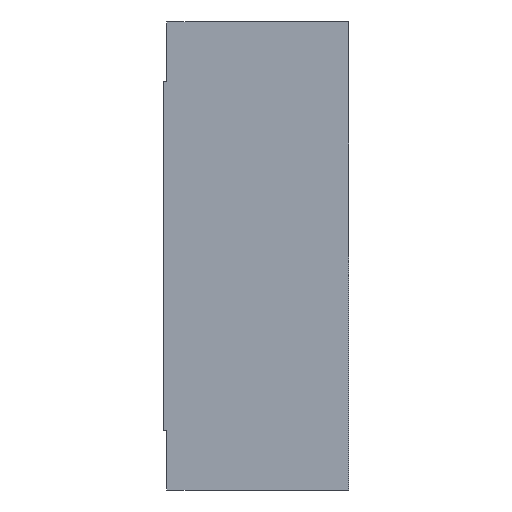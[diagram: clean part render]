
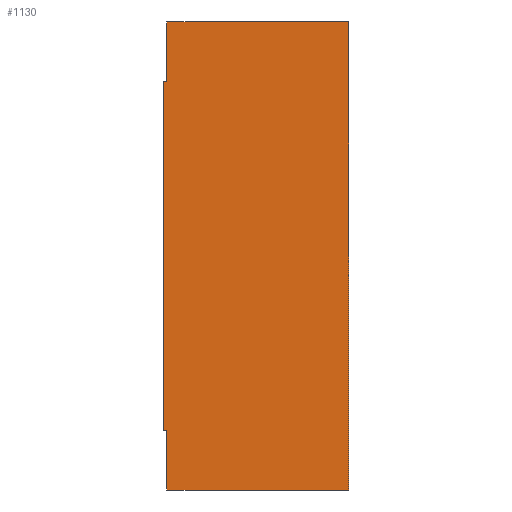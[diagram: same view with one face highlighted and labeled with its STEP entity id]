
A CAD part, left-side view. The second image highlights one B-rep face of the part: STEP entity #1130.
In plain terms, the highlighted planar face has unit normal (-1, 0, 0).
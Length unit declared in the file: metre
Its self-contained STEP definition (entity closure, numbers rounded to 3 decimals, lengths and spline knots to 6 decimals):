
#152=ORIENTED_EDGE('',*,*,#404,.T.);
#153=ORIENTED_EDGE('',*,*,#420,.F.);
#154=ORIENTED_EDGE('',*,*,#414,.T.);
#155=ORIENTED_EDGE('',*,*,#410,.T.);
#156=ORIENTED_EDGE('',*,*,#419,.F.);
#157=ORIENTED_EDGE('',*,*,#421,.T.);
#158=ORIENTED_EDGE('',*,*,#407,.F.);
#159=ORIENTED_EDGE('',*,*,#422,.F.);
#404=EDGE_CURVE('',#537,#539,#662,.T.);
#407=EDGE_CURVE('',#542,#543,#665,.T.);
#410=EDGE_CURVE('',#545,#546,#667,.T.);
#414=EDGE_CURVE('',#549,#545,#671,.T.);
#419=EDGE_CURVE('',#552,#546,#676,.T.);
#420=EDGE_CURVE('',#549,#539,#677,.T.);
#421=EDGE_CURVE('',#552,#543,#678,.T.);
#422=EDGE_CURVE('',#537,#542,#679,.T.);
#537=VERTEX_POINT('',#1709);
#539=VERTEX_POINT('',#1713);
#542=VERTEX_POINT('',#1720);
#543=VERTEX_POINT('',#1722);
#545=VERTEX_POINT('',#1729);
#546=VERTEX_POINT('',#1730);
#549=VERTEX_POINT('',#1738);
#552=VERTEX_POINT('',#1746);
#662=LINE('',#1714,#742);
#665=LINE('',#1721,#745);
#667=LINE('',#1728,#747);
#671=LINE('',#1737,#751);
#676=LINE('',#1747,#756);
#677=LINE('',#1749,#757);
#678=LINE('',#1750,#758);
#679=LINE('',#1751,#759);
#742=VECTOR('',#1360,1.);
#745=VECTOR('',#1365,1.);
#747=VECTOR('',#1373,1.);
#751=VECTOR('',#1379,1.);
#756=VECTOR('',#1386,1.);
#757=VECTOR('',#1389,1.);
#758=VECTOR('',#1390,1.);
#759=VECTOR('',#1391,1.);
#825=EDGE_LOOP('',(#152,#153,#154,#155,#156,#157,#158,#159));
#951=FACE_BOUND('',#825,.T.);
#1095=PLANE('',#1225);
#1130=ADVANCED_FACE('',(#951),#1095,.F.);
#1225=AXIS2_PLACEMENT_3D('',#1748,#1387,#1388);
#1360=DIRECTION('',(0.,-1.,0.));
#1365=DIRECTION('',(0.,-1.,0.));
#1373=DIRECTION('',(0.,0.,1.));
#1379=DIRECTION('',(0.,-1.,0.));
#1386=DIRECTION('',(0.,-1.,0.));
#1387=DIRECTION('',(1.,0.,0.));
#1388=DIRECTION('',(0.,0.,-1.));
#1389=DIRECTION('',(0.,0.,1.));
#1390=DIRECTION('',(0.,0.,-1.));
#1391=DIRECTION('',(0.,0.,1.));
#1709=CARTESIAN_POINT('',(0.,0.0265,-0.0585));
#1713=CARTESIAN_POINT('',(0.,0.026,-0.0585));
#1714=CARTESIAN_POINT('',(0.,0.0265,-0.0585));
#1720=CARTESIAN_POINT('',(0.,0.0265,-0.0085));
#1721=CARTESIAN_POINT('',(0.,0.0265,-0.0085));
#1722=CARTESIAN_POINT('',(0.,0.026,-0.0085));
#1728=CARTESIAN_POINT('',(0.,0.,0.));
#1729=CARTESIAN_POINT('',(0.,0.,-0.067));
#1730=CARTESIAN_POINT('',(0.,0.,0.));
#1737=CARTESIAN_POINT('',(0.,0.0265,-0.067));
#1738=CARTESIAN_POINT('',(0.,0.026,-0.067));
#1746=CARTESIAN_POINT('',(0.,0.026,0.));
#1747=CARTESIAN_POINT('',(0.,0.0265,0.));
#1748=CARTESIAN_POINT('',(0.,0.0265,0.));
#1749=CARTESIAN_POINT('',(0.,0.026,-0.067));
#1750=CARTESIAN_POINT('',(0.,0.026,0.));
#1751=CARTESIAN_POINT('',(0.,0.0265,0.));
